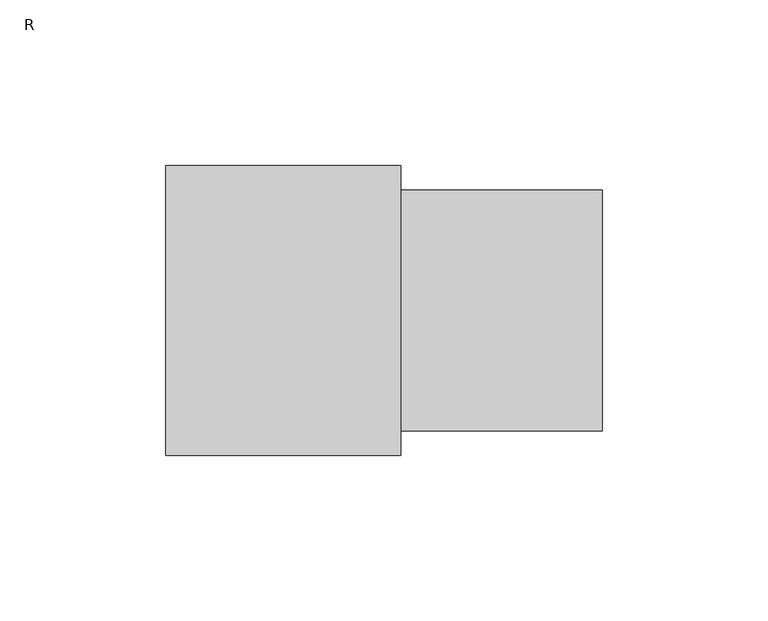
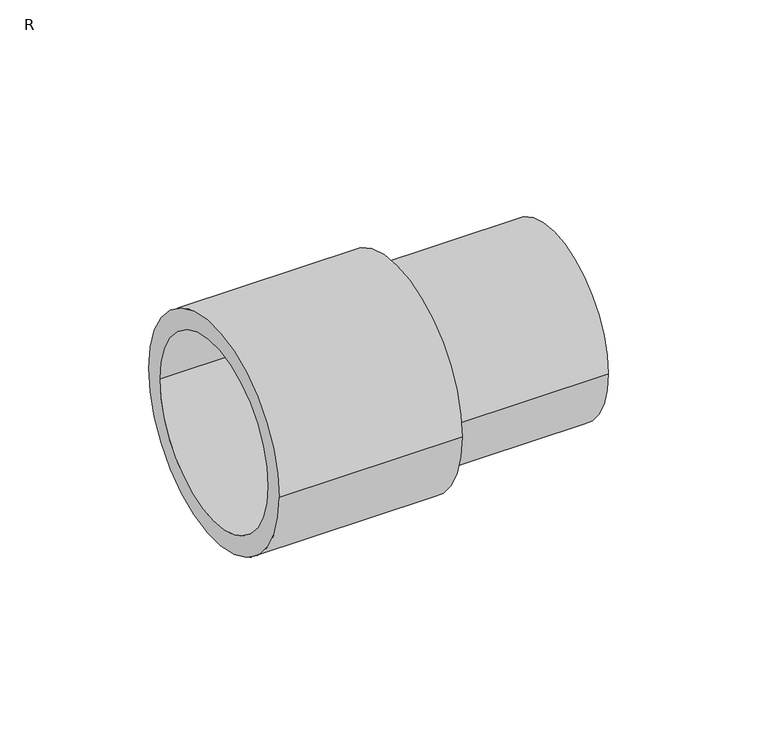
"""IFC4 building model written with IfcOpenShell, lengths in millimetres: pipe fitting geometry, FUSAPEX reducer : R."""

from ifc_helpers import new_model, si_unit, frame, origin, place, context, project, spatial, polyline, circle_curve, source, transform, mapped, element, save
from ifc_brep_helpers import plane_surface, cylinder_surface, revolved_surface, advanced_brep


def r_4d965f74(model_context):
    return source(origin(), model_context, "Body", "AdvancedBrep", [
        advanced_brep(
        [(-71.0, 36.25, 0.0), (-71.0, -36.25, 0.0), (-6.5, -36.25, 0.0), (-6.5, 36.25, 0.0), (0.0, 43.85, 0.0), (0.0, -43.85, 0.0), (-71.0, -43.85, 0.0), (-71.0, 43.85, 0.0), (61.0, 36.4, 0.0), (61.0, -36.4, 0.0), (0.0, -36.4, 0.0), (0.0, 36.4, 0.0), (-6.5, 30.25, 0.0), (-6.5, -30.25, 0.0), (61.0, -30.25, 0.0), (61.0, 30.25, 0.0)],
        [
            (0, 1, circle_curve(frame((-71.0, 0.0, 0.0), z_axis=(-1.0, 0.0, 0.0), x_axis=(0.0, -1.0, 0.0)), 36.25)),
            (1, 2),
            (2, 3, circle_curve(frame((-6.5, 0.0, 0.0), z_axis=(1.0, 0.0, 0.0), x_axis=(0.0, -1.0, 0.0)), 36.25)),
            (3, 0),
            (4, 5, circle_curve(frame((0.0, 0.0, 0.0), z_axis=(-1.0, 0.0, 0.0), x_axis=(0.0, -1.0, 0.0)), 43.85)),
            (5, 6),
            (6, 7, circle_curve(frame((-71.0, 0.0, 0.0), z_axis=(1.0, 0.0, 0.0), x_axis=(0.0, -1.0, 0.0)), 43.85)),
            (7, 4),
            (8, 9, circle_curve(frame((61.0, 0.0, 0.0), z_axis=(-1.0, 0.0, 0.0), x_axis=(0.0, -1.0, 0.0)), 36.4)),
            (9, 10),
            (10, 11, circle_curve(frame((0.0, 0.0, 0.0), z_axis=(1.0, 0.0, 0.0), x_axis=(0.0, -1.0, 0.0)), 36.4)),
            (11, 8),
            (12, 13, circle_curve(frame((-6.5, 0.0, 0.0), z_axis=(-1.0, 0.0, 0.0), x_axis=(0.0, -1.0, 0.0)), 30.25)),
            (13, 14),
            (14, 15, circle_curve(frame((61.0, 0.0, 0.0), z_axis=(1.0, 0.0, 0.0), x_axis=(0.0, -1.0, 0.0)), 30.25)),
            (15, 12),
            (1, 0, circle_curve(frame((-71.0, 0.0, 0.0), z_axis=(-1.0, 0.0, 0.0), x_axis=(0.0, 1.0, 0.0)), 36.25)),
            (3, 2, circle_curve(frame((-6.5, 0.0, 0.0), z_axis=(1.0, 0.0, 0.0), x_axis=(0.0, 1.0, 0.0)), 36.25)),
            (6, 7, circle_curve(frame((-71.0, 0.0, 0.0), z_axis=(-1.0, 0.0, 0.0), x_axis=(0.0, 1.0, 0.0)), 43.85)),
            (5, 4, circle_curve(frame((0.0, 0.0, 0.0), z_axis=(-1.0, 0.0, 0.0), x_axis=(0.0, 1.0, 0.0)), 43.85)),
            (10, 11, circle_curve(frame((0.0, 0.0, 0.0), z_axis=(-1.0, 0.0, 0.0), x_axis=(0.0, 1.0, 0.0)), 36.4)),
            (9, 8, circle_curve(frame((61.0, 0.0, 0.0), z_axis=(-1.0, 0.0, 0.0), x_axis=(0.0, 1.0, 0.0)), 36.4)),
            (14, 15, circle_curve(frame((61.0, 0.0, 0.0), z_axis=(-1.0, 0.0, 0.0), x_axis=(0.0, 1.0, 0.0)), 30.25)),
            (13, 12, circle_curve(frame((-6.5, 0.0, 0.0), z_axis=(-1.0, 0.0, 0.0), x_axis=(0.0, 1.0, 0.0)), 30.25)),
        ],
        [
            revolved_surface(polyline([(-6.5, -36.25, 0.0), (-71.0, -36.25, 0.0)]), (0.0, 0.0, 0.0), (1.0, 0.0, 0.0)),
            cylinder_surface(frame((0.0, 0.0, 0.0), z_axis=(1.0, 0.0, 0.0), x_axis=(0.0, -1.0, 0.0)), 43.85),
            cylinder_surface(frame((0.0, 0.0, 0.0), z_axis=(1.0, 0.0, 0.0), x_axis=(0.0, -1.0, 0.0)), 36.4),
            revolved_surface(polyline([(61.0, -30.25, 0.0), (-6.5, -30.25, 0.0)]), (0.0, 0.0, 0.0), (1.0, 0.0, 0.0)),
            revolved_surface(polyline([(-6.5, 36.25, 0.0), (-71.0, 36.25, 0.0)]), (0.0, 0.0, 0.0), (1.0, 0.0, 0.0)),
            plane_surface(frame((-71.0, 0.0, 0.0), z_axis=(-1.0, 0.0, 0.0), x_axis=(0.0, 1.0, 0.0))),
            cylinder_surface(frame((0.0, 0.0, 0.0), z_axis=(1.0, 0.0, 0.0), x_axis=(0.0, 1.0, 0.0)), 43.85),
            plane_surface(frame((0.0, 0.0, 0.0), z_axis=(1.0, 0.0, 0.0), x_axis=(0.0, 1.0, 0.0))),
            cylinder_surface(frame((0.0, 0.0, 0.0), z_axis=(1.0, 0.0, 0.0), x_axis=(0.0, 1.0, 0.0)), 36.4),
            plane_surface(frame((61.0, 0.0, 0.0), z_axis=(1.0, 0.0, 0.0), x_axis=(0.0, 1.0, 0.0))),
            revolved_surface(polyline([(61.0, 30.25, 0.0), (-6.5, 30.25, 0.0)]), (0.0, 0.0, 0.0), (1.0, 0.0, 0.0)),
            plane_surface(frame((-6.5, 0.0, 0.0), z_axis=(-1.0, 0.0, 0.0), x_axis=(0.0, 1.0, 0.0))),
        ],
        [
            (0, [[1, 2, 3, 4]]),
            (1, [[5, 6, 7, 8]]),
            (2, [[9, 10, 11, 12]]),
            (3, [[13, 14, 15, 16]]),
            (4, [[17, -4, 18, -2]]),
            (5, [[19, -7], [-17, -1]]),
            (6, [[20, -8, -19, -6]]),
            (7, [[-20, -5], [21, -11]]),
            (8, [[22, -12, -21, -10]]),
            (9, [[-22, -9], [23, -15]]),
            (10, [[24, -16, -23, -14]]),
            (11, [[-18, -3], [-24, -13]]),
        ],
    ),
    ])


if __name__ == "__main__":
    model = new_model("IFC4")
    model_context = context("Model", 3, world=origin())
    ifc_project = project(units=[si_unit("LENGTHUNIT", "METRE", prefix="MILLI")], contexts=[model_context])
    site = spatial("IfcSite", under=ifc_project)
    building = spatial("IfcBuilding", under=site)
    placement = place(None, origin())
    r_shape = r_4d965f74(model_context)
    element("IfcPipeFitting", 1, ObjectType="FUSAPEX reducer : R", at=placement, inside=building, context=model_context, shape_type="MappedRepresentation", body=[
        mapped(r_shape, transform((0.0, 0.0, 0.0), x_axis=(1.0, 0.0, 0.0), y_axis=(0.0, 1.0, 0.0), z_axis=(0.0, 0.0, 1.0))),
    ])
    save(model, "model.ifc")
